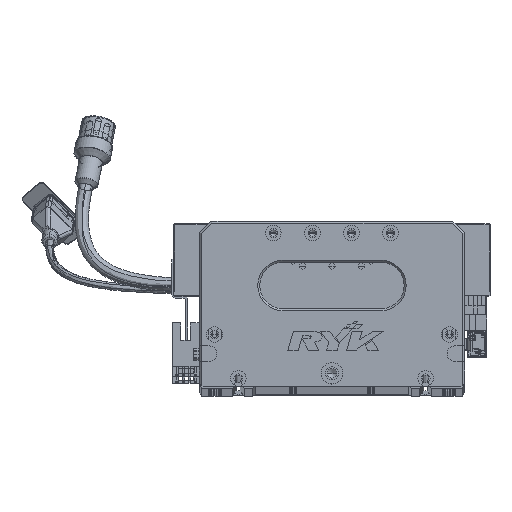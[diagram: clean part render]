
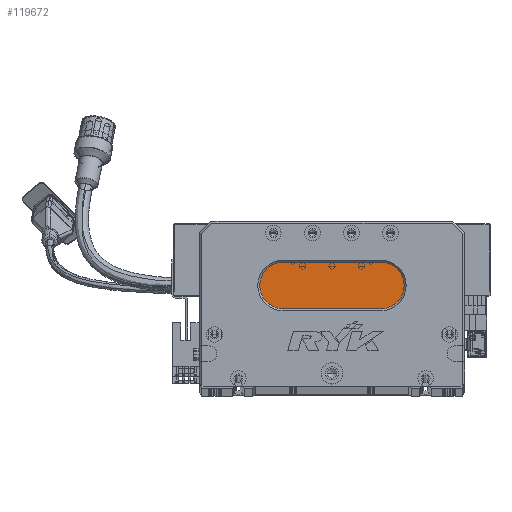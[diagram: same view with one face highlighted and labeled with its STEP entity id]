
A CAD part, top view. The second image highlights one B-rep face of the part: STEP entity #119672.
In plain terms, the highlighted planar face has unit normal (0, 0, 1) as drawn and (0, 0, -1) by its records, which use the part's own axes.
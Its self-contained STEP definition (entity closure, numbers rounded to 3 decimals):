
#2530 = VERTEX_POINT ( 'NONE', #98015 ) ;
#2618 = CARTESIAN_POINT ( 'NONE',  ( 43., 52., 13. ) ) ;
#3882 = VECTOR ( 'NONE', #80418, 1000. ) ;
#3889 = AXIS2_PLACEMENT_3D ( 'NONE', #33583, #80594, #100159 ) ;
#4301 = ORIENTED_EDGE ( 'NONE', *, *, #33814, .T. ) ;
#10008 = CARTESIAN_POINT ( 'NONE',  ( 43., 40., 13. ) ) ;
#13699 = VERTEX_POINT ( 'NONE', #106925 ) ;
#14424 = LINE ( 'NONE', #52541, #3882 ) ;
#19750 = FACE_OUTER_BOUND ( 'NONE', #43861, .T. ) ;
#23113 = DIRECTION ( 'NONE',  ( -1., 0., 0. ) ) ;
#23938 = DIRECTION ( 'NONE',  ( 0., 0., -1. ) ) ;
#26156 = CIRCLE ( 'NONE', #3889, 12. ) ;
#30459 = EDGE_CURVE ( 'NONE', #95509, #2530, #113413, .T. ) ;
#31240 = CARTESIAN_POINT ( 'NONE',  ( 93., 64., 13. ) ) ;
#33094 = CARTESIAN_POINT ( 'NONE',  ( 93., 52., 13. ) ) ;
#33583 = CARTESIAN_POINT ( 'NONE',  ( 93., 52., 13. ) ) ;
#33814 = EDGE_CURVE ( 'NONE', #50724, #95509, #103618, .T. ) ;
#38992 = ORIENTED_EDGE ( 'NONE', *, *, #30459, .T. ) ;
#43861 = EDGE_LOOP ( 'NONE', ( #76992, #4301, #38992, #64900, #54331 ) ) ;
#45991 = AXIS2_PLACEMENT_3D ( 'NONE', #75638, #65639, #94383 ) ;
#50685 = EDGE_CURVE ( 'NONE', #112160, #50724, #26156, .T. ) ;
#50724 = VERTEX_POINT ( 'NONE', #91046 ) ;
#51344 = DIRECTION ( 'NONE',  ( 0., 0., -1. ) ) ;
#52541 = CARTESIAN_POINT ( 'NONE',  ( 93., 64., 13. ) ) ;
#54331 = ORIENTED_EDGE ( 'NONE', *, *, #116271, .T. ) ;
#64900 = ORIENTED_EDGE ( 'NONE', *, *, #72088, .T. ) ;
#65639 = DIRECTION ( 'NONE',  ( 0., 0., -1. ) ) ;
#72088 = EDGE_CURVE ( 'NONE', #2530, #13699, #91603, .T. ) ;
#74958 = DIRECTION ( 'NONE',  ( -1., 0., 0. ) ) ;
#75638 = CARTESIAN_POINT ( 'NONE',  ( 43., 52., 13. ) ) ;
#76992 = ORIENTED_EDGE ( 'NONE', *, *, #50685, .T. ) ;
#80418 = DIRECTION ( 'NONE',  ( 1., 0., 0. ) ) ;
#80594 = DIRECTION ( 'NONE',  ( 0., 0., -1. ) ) ;
#90145 = PLANE ( 'NONE',  #117504 ) ;
#91046 = CARTESIAN_POINT ( 'NONE',  ( 93., 40., 13. ) ) ;
#91603 = CIRCLE ( 'NONE', #121098, 12. ) ;
#94383 = DIRECTION ( 'NONE',  ( -1., 0., 0. ) ) ;
#94941 = CARTESIAN_POINT ( 'NONE',  ( 93., 40., 13. ) ) ;
#95509 = VERTEX_POINT ( 'NONE', #10008 ) ;
#98015 = CARTESIAN_POINT ( 'NONE',  ( 31., 52., 13. ) ) ;
#100159 = DIRECTION ( 'NONE',  ( -1., 0., 0. ) ) ;
#103618 = LINE ( 'NONE', #94941, #115613 ) ;
#106925 = CARTESIAN_POINT ( 'NONE',  ( 43., 64., 13. ) ) ;
#112160 = VERTEX_POINT ( 'NONE', #31240 ) ;
#113413 = CIRCLE ( 'NONE', #45991, 12. ) ;
#115613 = VECTOR ( 'NONE', #74958, 1000. ) ;
#116271 = EDGE_CURVE ( 'NONE', #13699, #112160, #14424, .T. ) ;
#117504 = AXIS2_PLACEMENT_3D ( 'NONE', #33094, #23938, #23113 ) ;
#118023 = DIRECTION ( 'NONE',  ( -1., 0., 0. ) ) ;
#119672 = ADVANCED_FACE ( 'NONE', ( #19750 ), #90145, .T. ) ;
#121098 = AXIS2_PLACEMENT_3D ( 'NONE', #2618, #51344, #118023 ) ;
